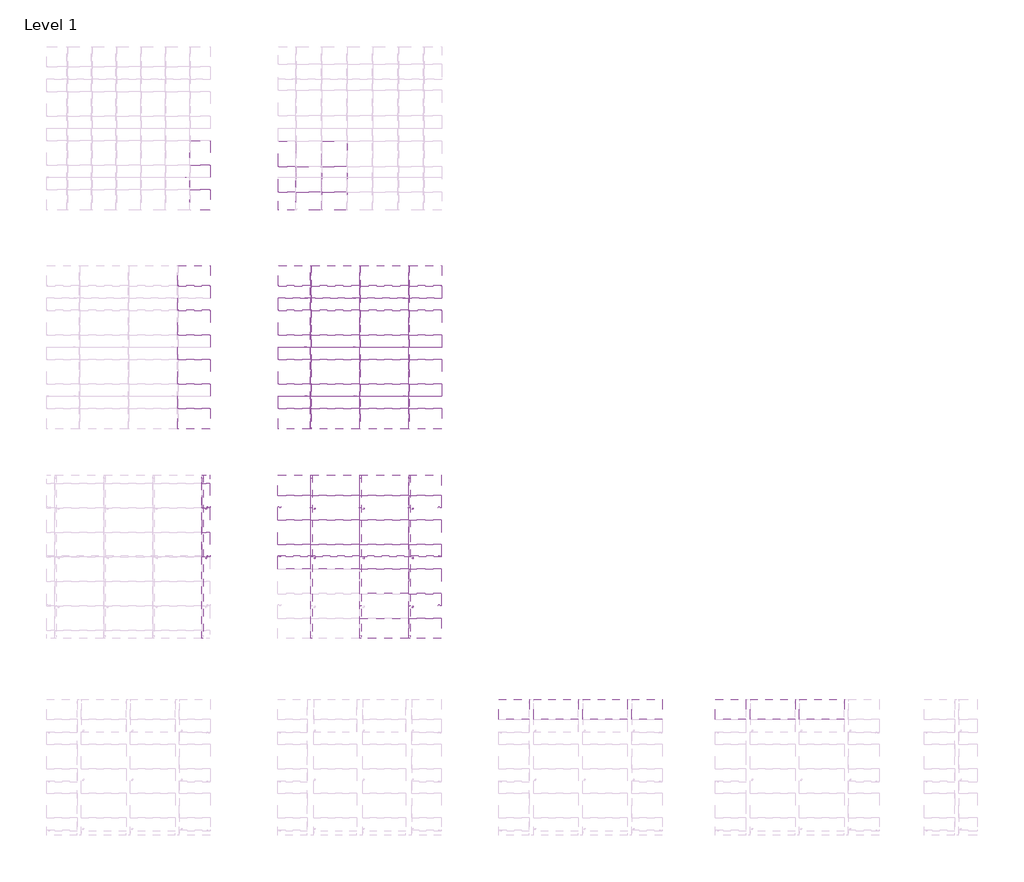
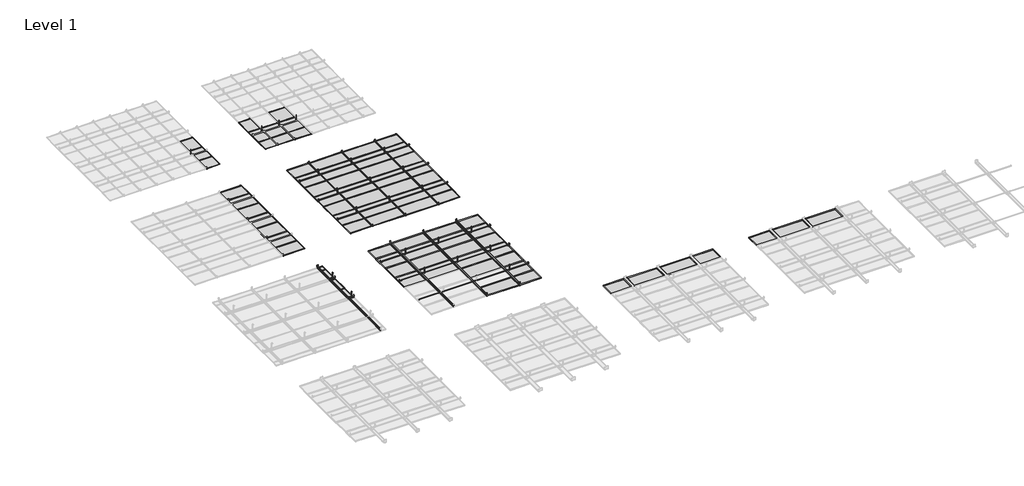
# One storey, part 20 of 32: 135 proxies.
"""IFC4 building model written with IfcOpenShell, lengths in millimetres."""

from ifc_helpers import new_model, si_unit, origin, place, context, project, spatial, transform, mapped, element, save
from components import generic_models_6a3b3989, generic_models_23599627, generic_models_d6b72831, generic_models_b4e013a1, generic_models_a68d030a, generic_models_2e6f3e4f, generic_models_30bc5e68, generic_models_f1efeb4e, generic_models_8a91d987, generic_models_d8e51ee8, generic_models_84546a59, generic_models_9e18e937, generic_models_28f6a95c, generic_models_9ccf16c1, generic_models_0c29f77a, generic_models_38625c8c, generic_models_52b0cff2, generic_models_a15f8cf3, generic_models_7573e460, generic_models_cc1ed79e, generic_models_8a6f20a3, generic_models_2f172364, generic_models_72923a4e, generic_models_39815823, generic_models_aa8f36d8, generic_models_26324e2b, generic_models_eb6e0cd6, generic_models_ee13603d, generic_models_6d21b951, generic_models_9f1153b6

model = new_model("IFC4")

# Units and contexts
model_context = context("Model", 3, world=origin())
ifc_project = project(units=[si_unit("LENGTHUNIT", "METRE", prefix="MILLI")], contexts=[model_context])

# Site, building, storey
site = spatial("IfcSite", under=ifc_project)
building = spatial("IfcBuilding", under=site)
storey = spatial("IfcBuildingStorey", under=building, Name="Level 1", Elevation=0.0)

# Proxies
placement = place(None, origin())
generic_models_shape = generic_models_6a3b3989(model_context)
element("IfcBuildingElementProxy", 1, Name="durlum_S4_panel : durlum_S4_panel_wall_length_cut", ObjectType="durlum_S4_panel : durlum_S4_panel_wall_length_cut", at=placement, inside=storey, context=model_context, shape_type="MappedRepresentation", body=[
    mapped(generic_models_shape, transform((-15490.1736977, 4332.0111467, 3700.0), x_axis=(1.0, 0.0, 0.0), y_axis=(0.0, 1.0, 0.0), z_axis=(0.0, 0.0, 1.0))),
])
element("IfcBuildingElementProxy", 2, Name="durlum_S4_panel : durlum_S4_panel_wall_length_cut", ObjectType="durlum_S4_panel : durlum_S4_panel_wall_length_cut", at=placement, inside=storey, context=model_context, shape_type="MappedRepresentation", body=[
    mapped(generic_models_shape, transform((-15490.1736977, 4932.0111467, 3700.0), x_axis=(1.0, 0.0, 0.0), y_axis=(0.0, 1.0, 0.0), z_axis=(0.0, 0.0, 1.0))),
])
element("IfcBuildingElementProxy", 3, Name="durlum_S4_panel : durlum_S4_panel_wall_length_cut", ObjectType="durlum_S4_panel : durlum_S4_panel_wall_length_cut", at=placement, inside=storey, context=model_context, shape_type="MappedRepresentation", body=[
    mapped(generic_models_shape, transform((-15490.1736977, 5532.0111467, 3700.0), x_axis=(1.0, 0.0, 0.0), y_axis=(0.0, 1.0, 0.0), z_axis=(0.0, 0.0, 1.0))),
])
generic_models_2_shape = generic_models_23599627(model_context)
element("IfcBuildingElementProxy", 4, Name="durlum_S4_panel : durlum_S4_panel_wall_corner", ObjectType="durlum_S4_panel : durlum_S4_panel_wall_corner", at=placement, inside=storey, context=model_context, shape_type="MappedRepresentation", body=[
    mapped(generic_models_2_shape, transform((-15490.1736977, 5932.0111467, 3700.0), x_axis=(1.0, 0.0, 0.0), y_axis=(0.0, 1.0, 0.0), z_axis=(0.0, 0.0, 1.0))),
])
generic_models_3_shape = generic_models_d6b72831(model_context)
element("IfcBuildingElementProxy", 5, Name="durlum_S4.7K : durlum_S4.7K", ObjectType="durlum_S4.7K : durlum_S4.7K", at=placement, inside=storey, context=model_context, shape_type="MappedRepresentation", body=[
    mapped(generic_models_3_shape, transform((-11736.0747393, 4032.0111467, 1700.0), x_axis=(1.0, 0.0, 0.0), y_axis=(0.0, 1.0, 0.0), z_axis=(0.0, 0.0, 1.0))),
])
generic_models_4_shape = generic_models_b4e013a1(model_context)
element("IfcBuildingElementProxy", 6, Name="durlum_S4.7K_panel : durlum_S4.7_panel", ObjectType="durlum_S4.7K_panel : durlum_S4.7_panel", at=placement, inside=storey, context=model_context, shape_type="MappedRepresentation", body=[
    mapped(generic_models_4_shape, transform((-12336.0747393, 4032.0111467, 3700.0), x_axis=(1.0, 0.0, 0.0), y_axis=(0.0, 1.0, 0.0), z_axis=(0.0, 0.0, 1.0))),
])
element("IfcBuildingElementProxy", 7, Name="durlum_S4.7K_panel : durlum_S4.7_panel", ObjectType="durlum_S4.7K_panel : durlum_S4.7_panel", at=placement, inside=storey, context=model_context, shape_type="MappedRepresentation", body=[
    mapped(generic_models_4_shape, transform((-11136.0747393, 4032.0111467, 3700.0), x_axis=(1.0, 0.0, 0.0), y_axis=(0.0, 1.0, 0.0), z_axis=(0.0, 0.0, 1.0))),
])
element("IfcBuildingElementProxy", 8, Name="durlum_S4.7K_panel : durlum_S4.7_panel", ObjectType="durlum_S4.7K_panel : durlum_S4.7_panel", at=placement, inside=storey, context=model_context, shape_type="MappedRepresentation", body=[
    mapped(generic_models_4_shape, transform((-12336.0747393, 4632.0111467, 3700.0), x_axis=(1.0, 0.0, 0.0), y_axis=(0.0, 1.0, 0.0), z_axis=(0.0, 0.0, 1.0))),
])
element("IfcBuildingElementProxy", 9, Name="durlum_S4.7K_panel : durlum_S4.7_panel", ObjectType="durlum_S4.7K_panel : durlum_S4.7_panel", at=placement, inside=storey, context=model_context, shape_type="MappedRepresentation", body=[
    mapped(generic_models_4_shape, transform((-11136.0747393, 4632.0111467, 3700.0), x_axis=(1.0, 0.0, 0.0), y_axis=(0.0, 1.0, 0.0), z_axis=(0.0, 0.0, 1.0))),
])
element("IfcBuildingElementProxy", 10, Name="durlum_S4.7K_panel : durlum_S4.7_panel", ObjectType="durlum_S4.7K_panel : durlum_S4.7_panel", at=placement, inside=storey, context=model_context, shape_type="MappedRepresentation", body=[
    mapped(generic_models_4_shape, transform((-12336.0747393, 5232.0111467, 3700.0), x_axis=(1.0, 0.0, 0.0), y_axis=(0.0, 1.0, 0.0), z_axis=(0.0, 0.0, 1.0))),
])
element("IfcBuildingElementProxy", 11, Name="durlum_S4.7K_panel : durlum_S4.7_panel", ObjectType="durlum_S4.7K_panel : durlum_S4.7_panel", at=placement, inside=storey, context=model_context, shape_type="MappedRepresentation", body=[
    mapped(generic_models_4_shape, transform((-11136.0747393, 5232.0111467, 3700.0), x_axis=(1.0, 0.0, 0.0), y_axis=(0.0, 1.0, 0.0), z_axis=(0.0, 0.0, 1.0))),
])
element("IfcBuildingElementProxy", 12, Name="durlum_S4.7K_panel : durlum_S4.7_panel", ObjectType="durlum_S4.7K_panel : durlum_S4.7_panel", at=placement, inside=storey, context=model_context, shape_type="MappedRepresentation", body=[
    mapped(generic_models_4_shape, transform((-11136.0747393, 3432.0111467, 3700.0), x_axis=(1.0, 0.0, 0.0), y_axis=(0.0, 1.0, 0.0), z_axis=(0.0, 0.0, 1.0))),
])
generic_models_5_shape = generic_models_a68d030a(model_context)
element("IfcBuildingElementProxy", 13, Name="durlum_S4.7K_panel : durlum_S4.7_panel_wall_length_cut", ObjectType="durlum_S4.7K_panel : durlum_S4.7_panel_wall_length_cut", at=placement, inside=storey, context=model_context, shape_type="MappedRepresentation", body=[
    mapped(generic_models_5_shape, transform((-10136.0747393, 3432.0111467, 3700.0), x_axis=(1.0, 0.0, 0.0), y_axis=(0.0, 1.0, 0.0), z_axis=(0.0, 0.0, 1.0))),
])
element("IfcBuildingElementProxy", 14, Name="durlum_S4.7K_panel : durlum_S4.7_panel_wall_length_cut", ObjectType="durlum_S4.7K_panel : durlum_S4.7_panel_wall_length_cut", at=placement, inside=storey, context=model_context, shape_type="MappedRepresentation", body=[
    mapped(generic_models_5_shape, transform((-13336.0747393, 4032.0111467, 3700.0), x_axis=(1.0, 0.0, 0.0), y_axis=(0.0, 1.0, 0.0), z_axis=(0.0, 0.0, 1.0))),
])
element("IfcBuildingElementProxy", 15, Name="durlum_S4.7K_panel : durlum_S4.7_panel_wall_length_cut", ObjectType="durlum_S4.7K_panel : durlum_S4.7_panel_wall_length_cut", at=placement, inside=storey, context=model_context, shape_type="MappedRepresentation", body=[
    mapped(generic_models_5_shape, transform((-10136.0747393, 4032.0111467, 3700.0), x_axis=(1.0, 0.0, 0.0), y_axis=(0.0, 1.0, 0.0), z_axis=(0.0, 0.0, 1.0))),
])
element("IfcBuildingElementProxy", 16, Name="durlum_S4.7K_panel : durlum_S4.7_panel_wall_length_cut", ObjectType="durlum_S4.7K_panel : durlum_S4.7_panel_wall_length_cut", at=placement, inside=storey, context=model_context, shape_type="MappedRepresentation", body=[
    mapped(generic_models_5_shape, transform((-13336.0747393, 4632.0111467, 3700.0), x_axis=(1.0, 0.0, 0.0), y_axis=(0.0, 1.0, 0.0), z_axis=(0.0, 0.0, 1.0))),
])
element("IfcBuildingElementProxy", 17, Name="durlum_S4.7K_panel : durlum_S4.7_panel_wall_length_cut", ObjectType="durlum_S4.7K_panel : durlum_S4.7_panel_wall_length_cut", at=placement, inside=storey, context=model_context, shape_type="MappedRepresentation", body=[
    mapped(generic_models_5_shape, transform((-10136.0747393, 4632.0111467, 3700.0), x_axis=(1.0, 0.0, 0.0), y_axis=(0.0, 1.0, 0.0), z_axis=(0.0, 0.0, 1.0))),
])
element("IfcBuildingElementProxy", 18, Name="durlum_S4.7K_panel : durlum_S4.7_panel_wall_length_cut", ObjectType="durlum_S4.7K_panel : durlum_S4.7_panel_wall_length_cut", at=placement, inside=storey, context=model_context, shape_type="MappedRepresentation", body=[
    mapped(generic_models_5_shape, transform((-10136.0747393, 2832.0111467, 3700.0), x_axis=(1.0, 0.0, 0.0), y_axis=(0.0, 1.0, 0.0), z_axis=(0.0, 0.0, 1.0))),
])
element("IfcBuildingElementProxy", 19, Name="durlum_S4.7K_panel : durlum_S4.7_panel_wall_length_cut", ObjectType="durlum_S4.7K_panel : durlum_S4.7_panel_wall_length_cut", at=placement, inside=storey, context=model_context, shape_type="MappedRepresentation", body=[
    mapped(generic_models_5_shape, transform((-10136.0747393, 5232.0111467, 3700.0), x_axis=(1.0, 0.0, 0.0), y_axis=(0.0, 1.0, 0.0), z_axis=(0.0, 0.0, 1.0))),
])
element("IfcBuildingElementProxy", 20, Name="durlum_S4.7K_panel : durlum_S4.7_panel_wall_length_cut", ObjectType="durlum_S4.7K_panel : durlum_S4.7_panel_wall_length_cut", at=placement, inside=storey, context=model_context, shape_type="MappedRepresentation", body=[
    mapped(generic_models_5_shape, transform((-13336.0747393, 5232.0111467, 3700.0), x_axis=(1.0, 0.0, 0.0), y_axis=(0.0, 1.0, 0.0), z_axis=(0.0, 0.0, 1.0))),
])
generic_models_6_shape = generic_models_2e6f3e4f(model_context)
element("IfcBuildingElementProxy", 21, Name="durlum_S4.7K_panel : durlum_S4.7_panel_wall_width_cut", ObjectType="durlum_S4.7K_panel : durlum_S4.7_panel_wall_width_cut", at=placement, inside=storey, context=model_context, shape_type="MappedRepresentation", body=[
    mapped(generic_models_6_shape, transform((-11136.0747393, 2282.0111467, 3700.0), x_axis=(1.0, 0.0, 0.0), y_axis=(0.0, 1.0, 0.0), z_axis=(0.0, 0.0, 1.0))),
])
element("IfcBuildingElementProxy", 22, Name="durlum_S4.7K_panel : durlum_S4.7_panel_wall_width_cut", ObjectType="durlum_S4.7K_panel : durlum_S4.7_panel_wall_width_cut", at=placement, inside=storey, context=model_context, shape_type="MappedRepresentation", body=[
    mapped(generic_models_6_shape, transform((-11136.0747393, 5782.0111467, 3700.0), x_axis=(1.0, 0.0, 0.0), y_axis=(0.0, 1.0, 0.0), z_axis=(0.0, 0.0, 1.0))),
])
element("IfcBuildingElementProxy", 23, Name="durlum_S4.7K_panel : durlum_S4.7_panel_wall_width_cut", ObjectType="durlum_S4.7K_panel : durlum_S4.7_panel_wall_width_cut", at=placement, inside=storey, context=model_context, shape_type="MappedRepresentation", body=[
    mapped(generic_models_6_shape, transform((-12336.0747393, 5782.0111467, 3700.0), x_axis=(1.0, 0.0, 0.0), y_axis=(0.0, 1.0, 0.0), z_axis=(0.0, 0.0, 1.0))),
])
generic_models_7_shape = generic_models_30bc5e68(model_context)
element("IfcBuildingElementProxy", 24, Name="durlum_S4.7K_panel : durlum_S4.7_panel_wall_corner", ObjectType="durlum_S4.7K_panel : durlum_S4.7_panel_wall_corner", at=placement, inside=storey, context=model_context, shape_type="MappedRepresentation", body=[
    mapped(generic_models_7_shape, transform((-10136.0747393, 2282.0111467, 3700.0), x_axis=(1.0, 0.0, 0.0), y_axis=(0.0, 1.0, 0.0), z_axis=(0.0, 0.0, 1.0))),
])
element("IfcBuildingElementProxy", 25, Name="durlum_S4.7K_panel : durlum_S4.7_panel_wall_corner", ObjectType="durlum_S4.7K_panel : durlum_S4.7_panel_wall_corner", at=placement, inside=storey, context=model_context, shape_type="MappedRepresentation", body=[
    mapped(generic_models_7_shape, transform((-10136.0747393, 5782.0111467, 3700.0), x_axis=(1.0, 0.0, 0.0), y_axis=(0.0, 1.0, 0.0), z_axis=(0.0, 0.0, 1.0))),
])
element("IfcBuildingElementProxy", 26, Name="durlum_S4.7K_panel : durlum_S4.7_panel_wall_corner", ObjectType="durlum_S4.7K_panel : durlum_S4.7_panel_wall_corner", at=placement, inside=storey, context=model_context, shape_type="MappedRepresentation", body=[
    mapped(generic_models_7_shape, transform((-13336.0747393, 5782.0111467, 3700.0), x_axis=(1.0, 0.0, 0.0), y_axis=(0.0, 1.0, 0.0), z_axis=(0.0, 0.0, 1.0))),
])
generic_models_8_shape = generic_models_f1efeb4e(model_context)
element("IfcBuildingElementProxy", 27, Name="durlum_U1300 : durlum_U1300", ObjectType="durlum_U1300 : durlum_U1300", at=placement, inside=storey, context=model_context, shape_type="MappedRepresentation", body=[
    mapped(generic_models_8_shape, transform((-10630.0747393, 9162.5129347, 3081.9124682), x_axis=(0.0, -1.0, 0.0), y_axis=(1.0, 0.0, 0.0), z_axis=(0.0, 0.0, 1.0))),
])
element("IfcBuildingElementProxy", 28, Name="durlum_U1300 : durlum_U1300", ObjectType="durlum_U1300 : durlum_U1300", at=placement, inside=storey, context=model_context, shape_type="MappedRepresentation", body=[
    mapped(generic_models_8_shape, transform((-13030.0747393, 9162.5129347, 3081.9124682), x_axis=(0.0, -1.0, 0.0), y_axis=(1.0, 0.0, 0.0), z_axis=(0.0, 0.0, 1.0))),
])
element("IfcBuildingElementProxy", 29, Name="durlum_U1300 : durlum_U1300", ObjectType="durlum_U1300 : durlum_U1300", at=placement, inside=storey, context=model_context, shape_type="MappedRepresentation", body=[
    mapped(generic_models_8_shape, transform((-11830.0747393, 9162.5129347, 3081.9124682), x_axis=(0.0, -1.0, 0.0), y_axis=(1.0, 0.0, 0.0), z_axis=(0.0, 0.0, 1.0))),
])
element("IfcBuildingElementProxy", 30, Name="durlum_U1300 : durlum_U1300", ObjectType="durlum_U1300 : durlum_U1300", at=placement, inside=storey, context=model_context, shape_type="MappedRepresentation", body=[
    mapped(generic_models_8_shape, transform((-10630.0747393, 7962.5129347, 3081.9124682), x_axis=(0.0, -1.0, 0.0), y_axis=(1.0, 0.0, 0.0), z_axis=(0.0, 0.0, 1.0))),
])
element("IfcBuildingElementProxy", 31, Name="durlum_U1300 : durlum_U1300", ObjectType="durlum_U1300 : durlum_U1300", at=placement, inside=storey, context=model_context, shape_type="MappedRepresentation", body=[
    mapped(generic_models_8_shape, transform((-13030.0747393, 7962.5129347, 3081.9124682), x_axis=(0.0, -1.0, 0.0), y_axis=(1.0, 0.0, 0.0), z_axis=(0.0, 0.0, 1.0))),
])
element("IfcBuildingElementProxy", 32, Name="durlum_U1300 : durlum_U1300", ObjectType="durlum_U1300 : durlum_U1300", at=placement, inside=storey, context=model_context, shape_type="MappedRepresentation", body=[
    mapped(generic_models_8_shape, transform((-11830.0747393, 7962.5129347, 3081.9124682), x_axis=(0.0, -1.0, 0.0), y_axis=(1.0, 0.0, 0.0), z_axis=(0.0, 0.0, 1.0))),
])
element("IfcBuildingElementProxy", 33, Name="durlum_U1300 : durlum_U1300", ObjectType="durlum_U1300 : durlum_U1300", at=placement, inside=storey, context=model_context, shape_type="MappedRepresentation", body=[
    mapped(generic_models_8_shape, transform((-10630.0747393, 10362.5129347, 3081.9124682), x_axis=(0.0, -1.0, 0.0), y_axis=(1.0, 0.0, 0.0), z_axis=(0.0, 0.0, 1.0))),
])
element("IfcBuildingElementProxy", 34, Name="durlum_U1300 : durlum_U1300", ObjectType="durlum_U1300 : durlum_U1300", at=placement, inside=storey, context=model_context, shape_type="MappedRepresentation", body=[
    mapped(generic_models_8_shape, transform((-13030.0747393, 10362.5129347, 3081.9124682), x_axis=(0.0, -1.0, 0.0), y_axis=(1.0, 0.0, 0.0), z_axis=(0.0, 0.0, 1.0))),
])
element("IfcBuildingElementProxy", 35, Name="durlum_U1300 : durlum_U1300", ObjectType="durlum_U1300 : durlum_U1300", at=placement, inside=storey, context=model_context, shape_type="MappedRepresentation", body=[
    mapped(generic_models_8_shape, transform((-11830.0747393, 10362.5129347, 3081.9124682), x_axis=(0.0, -1.0, 0.0), y_axis=(1.0, 0.0, 0.0), z_axis=(0.0, 0.0, 1.0))),
])
generic_models_9_shape = generic_models_8a91d987(model_context)
element("IfcBuildingElementProxy", 36, Name="durlum_U1300 : durlum_U1300", ObjectType="durlum_U1300 : durlum_U1300", at=placement, inside=storey, context=model_context, shape_type="MappedRepresentation", body=[
    mapped(generic_models_9_shape, transform((-15490.1736977, 5232.0111467, 3050.4124682), x_axis=(1.0, 0.0, 0.0), y_axis=(0.0, 1.0, 0.0), z_axis=(0.0, 0.0, 1.0))),
])
element("IfcBuildingElementProxy", 37, Name="durlum_U1300 : durlum_U1300", ObjectType="durlum_U1300 : durlum_U1300", at=placement, inside=storey, context=model_context, shape_type="MappedRepresentation", body=[
    mapped(generic_models_9_shape, transform((-15490.1736977, 4032.0111467, 3050.4124682), x_axis=(1.0, 0.0, 0.0), y_axis=(0.0, 1.0, 0.0), z_axis=(0.0, 0.0, 1.0))),
])
generic_models_10_shape = generic_models_d8e51ee8(model_context)
element("IfcBuildingElementProxy", 38, Name="durlum_U1300 : durlum_U1300", ObjectType="durlum_U1300 : durlum_U1300", at=placement, inside=storey, context=model_context, shape_type="MappedRepresentation", body=[
    mapped(generic_models_10_shape, transform((-12836.0747393, 4032.0111467, 3056.4124682), x_axis=(1.0, 0.0, 0.0), y_axis=(0.0, 1.0, 0.0), z_axis=(0.0, 0.0, 1.0))),
])
element("IfcBuildingElementProxy", 39, Name="durlum_U1300 : durlum_U1300", ObjectType="durlum_U1300 : durlum_U1300", at=placement, inside=storey, context=model_context, shape_type="MappedRepresentation", body=[
    mapped(generic_models_10_shape, transform((-10436.0747393, 4032.0111467, 3056.4124682), x_axis=(1.0, 0.0, 0.0), y_axis=(0.0, 1.0, 0.0), z_axis=(0.0, 0.0, 1.0))),
])
element("IfcBuildingElementProxy", 40, Name="durlum_U1300 : durlum_U1300", ObjectType="durlum_U1300 : durlum_U1300", at=placement, inside=storey, context=model_context, shape_type="MappedRepresentation", body=[
    mapped(generic_models_10_shape, transform((-12836.0747393, 5232.0111467, 3056.4124682), x_axis=(1.0, 0.0, 0.0), y_axis=(0.0, 1.0, 0.0), z_axis=(0.0, 0.0, 1.0))),
])
element("IfcBuildingElementProxy", 41, Name="durlum_U1300 : durlum_U1300", ObjectType="durlum_U1300 : durlum_U1300", at=placement, inside=storey, context=model_context, shape_type="MappedRepresentation", body=[
    mapped(generic_models_10_shape, transform((-10436.0747393, 5232.0111467, 3056.4124682), x_axis=(1.0, 0.0, 0.0), y_axis=(0.0, 1.0, 0.0), z_axis=(0.0, 0.0, 1.0))),
])
element("IfcBuildingElementProxy", 42, Name="durlum_U1300 : durlum_U1300", ObjectType="durlum_U1300 : durlum_U1300", at=placement, inside=storey, context=model_context, shape_type="MappedRepresentation", body=[
    mapped(generic_models_10_shape, transform((-10436.0747393, 2832.0111467, 3056.4124682), x_axis=(1.0, 0.0, 0.0), y_axis=(0.0, 1.0, 0.0), z_axis=(0.0, 0.0, 1.0))),
])
element("IfcBuildingElementProxy", 43, Name="durlum_U1300 : durlum_U1300", ObjectType="durlum_U1300 : durlum_U1300", at=placement, inside=storey, context=model_context, shape_type="MappedRepresentation", body=[
    mapped(generic_models_10_shape, transform((-11636.0747393, 4032.0111467, 3056.4124682), x_axis=(1.0, 0.0, 0.0), y_axis=(0.0, 1.0, 0.0), z_axis=(0.0, 0.0, 1.0))),
])
element("IfcBuildingElementProxy", 44, Name="durlum_U1300 : durlum_U1300", ObjectType="durlum_U1300 : durlum_U1300", at=placement, inside=storey, context=model_context, shape_type="MappedRepresentation", body=[
    mapped(generic_models_10_shape, transform((-11636.0747393, 5232.0111467, 3056.4124682), x_axis=(1.0, 0.0, 0.0), y_axis=(0.0, 1.0, 0.0), z_axis=(0.0, 0.0, 1.0))),
])
generic_models_11_shape = generic_models_84546a59(model_context)
element("IfcBuildingElementProxy", 45, Name="durlum_threaded_rod_M6 : durlum_threaded_rod_M6", ObjectType="durlum_threaded_rod_M6 : durlum_threaded_rod_M6", at=placement, inside=storey, context=model_context, shape_type="MappedRepresentation", body=[
    mapped(generic_models_11_shape, transform((-15984.1736977, 13316.936751, 3835.0), x_axis=(1.0, 0.0, 0.0), y_axis=(0.0, 1.0, 0.0), z_axis=(0.0, 0.0, 1.0))),
])
element("IfcBuildingElementProxy", 46, Name="durlum_threaded_rod_M6 : durlum_threaded_rod_M6", ObjectType="durlum_threaded_rod_M6 : durlum_threaded_rod_M6", at=placement, inside=storey, context=model_context, shape_type="MappedRepresentation", body=[
    mapped(generic_models_11_shape, transform((-13392.5747393, 13316.936751, 3835.0), x_axis=(1.0, 0.0, 0.0), y_axis=(0.0, 1.0, 0.0), z_axis=(0.0, 0.0, 1.0))),
])
element("IfcBuildingElementProxy", 47, Name="durlum_threaded_rod_M6 : durlum_threaded_rod_M6", ObjectType="durlum_threaded_rod_M6 : durlum_threaded_rod_M6", at=placement, inside=storey, context=model_context, shape_type="MappedRepresentation", body=[
    mapped(generic_models_11_shape, transform((-12142.5747393, 13316.936751, 3835.0), x_axis=(1.0, 0.0, 0.0), y_axis=(0.0, 1.0, 0.0), z_axis=(0.0, 0.0, 1.0))),
])
element("IfcBuildingElementProxy", 48, Name="durlum_threaded_rod_M6 : durlum_threaded_rod_M6", ObjectType="durlum_threaded_rod_M6 : durlum_threaded_rod_M6", at=placement, inside=storey, context=model_context, shape_type="MappedRepresentation", body=[
    mapped(generic_models_11_shape, transform((-12767.5747393, 13316.936751, 3835.0), x_axis=(1.0, 0.0, 0.0), y_axis=(0.0, 1.0, 0.0), z_axis=(0.0, 0.0, 1.0))),
])
generic_models_12_shape = generic_models_9e18e937(model_context)
element("IfcBuildingElementProxy", 49, Name="durlum_U1042 : durlum_U1042", ObjectType="durlum_U1042 : durlum_U1042", at=placement, inside=storey, context=model_context, shape_type="MappedRepresentation", body=[
    mapped(generic_models_12_shape, transform((-15571.7736977, 6032.0111467, 3772.0), x_axis=(1.0, 0.0, 0.0), y_axis=(0.0, 1.0, 0.0), z_axis=(0.0, 0.0, 1.0))),
])
element("IfcBuildingElementProxy", 50, Name="durlum_U1042 : durlum_U1042", ObjectType="durlum_U1042 : durlum_U1042", at=placement, inside=storey, context=model_context, shape_type="MappedRepresentation", body=[
    mapped(generic_models_12_shape, transform((-15390.1736977, 4046.0111467, 3770.0), x_axis=(0.0, -1.0, 0.0), y_axis=(1.0, 0.0, 0.0), z_axis=(0.0, 0.0, 1.0))),
])
element("IfcBuildingElementProxy", 51, Name="durlum_U1042 : durlum_U1042", ObjectType="durlum_U1042 : durlum_U1042", at=placement, inside=storey, context=model_context, shape_type="MappedRepresentation", body=[
    mapped(generic_models_12_shape, transform((-15390.1736977, 5246.0111467, 3770.0), x_axis=(0.0, -1.0, 0.0), y_axis=(1.0, 0.0, 0.0), z_axis=(0.0, 0.0, 1.0))),
])
generic_models_13_shape = generic_models_28f6a95c(model_context)
element("IfcBuildingElementProxy", 52, Name="durlum_U1042 : durlum_U1042", ObjectType="durlum_U1042 : durlum_U1042", at=placement, inside=storey, context=model_context, shape_type="MappedRepresentation", body=[
    mapped(generic_models_13_shape, transform((-13736.0747393, 4046.0111467, 3776.0), x_axis=(0.0, -1.0, 0.0), y_axis=(1.0, 0.0, 0.0), z_axis=(0.0, 0.0, 1.0))),
])
element("IfcBuildingElementProxy", 53, Name="durlum_U1042 : durlum_U1042", ObjectType="durlum_U1042 : durlum_U1042", at=placement, inside=storey, context=model_context, shape_type="MappedRepresentation", body=[
    mapped(generic_models_13_shape, transform((-13736.0747393, 5246.0111467, 3776.0), x_axis=(0.0, -1.0, 0.0), y_axis=(1.0, 0.0, 0.0), z_axis=(0.0, 0.0, 1.0))),
])
element("IfcBuildingElementProxy", 54, Name="durlum_U1042 : durlum_U1042", ObjectType="durlum_U1042 : durlum_U1042", at=placement, inside=storey, context=model_context, shape_type="MappedRepresentation", body=[
    mapped(generic_models_12_shape, transform((-9736.0747393, 4046.0111467, 3776.0), x_axis=(0.0, -1.0, 0.0), y_axis=(1.0, 0.0, 0.0), z_axis=(0.0, 0.0, 1.0))),
])
element("IfcBuildingElementProxy", 55, Name="durlum_U1042 : durlum_U1042", ObjectType="durlum_U1042 : durlum_U1042", at=placement, inside=storey, context=model_context, shape_type="MappedRepresentation", body=[
    mapped(generic_models_12_shape, transform((-9736.0747393, 5246.0111467, 3776.0), x_axis=(0.0, -1.0, 0.0), y_axis=(1.0, 0.0, 0.0), z_axis=(0.0, 0.0, 1.0))),
])
element("IfcBuildingElementProxy", 56, Name="durlum_U1042 : durlum_U1042", ObjectType="durlum_U1042 : durlum_U1042", at=placement, inside=storey, context=model_context, shape_type="MappedRepresentation", body=[
    mapped(generic_models_12_shape, transform((-12917.6747393, 6032.0111467, 3778.0), x_axis=(1.0, 0.0, 0.0), y_axis=(0.0, 1.0, 0.0), z_axis=(0.0, 0.0, 1.0))),
])
element("IfcBuildingElementProxy", 57, Name="durlum_U1042 : durlum_U1042", ObjectType="durlum_U1042 : durlum_U1042", at=placement, inside=storey, context=model_context, shape_type="MappedRepresentation", body=[
    mapped(generic_models_12_shape, transform((-10517.6747393, 2032.0111467, 3778.0), x_axis=(-1.0, 0.0, 0.0), y_axis=(0.0, -1.0, 0.0), z_axis=(0.0, 0.0, 1.0))),
])
element("IfcBuildingElementProxy", 58, Name="durlum_U1042 : durlum_U1042", ObjectType="durlum_U1042 : durlum_U1042", at=placement, inside=storey, context=model_context, shape_type="MappedRepresentation", body=[
    mapped(generic_models_12_shape, transform((-10517.6747393, 6032.0111467, 3778.0), x_axis=(1.0, 0.0, 0.0), y_axis=(0.0, 1.0, 0.0), z_axis=(0.0, 0.0, 1.0))),
])
element("IfcBuildingElementProxy", 59, Name="durlum_U1042 : durlum_U1042", ObjectType="durlum_U1042 : durlum_U1042", at=placement, inside=storey, context=model_context, shape_type="MappedRepresentation", body=[
    mapped(generic_models_12_shape, transform((-9736.0747393, 2846.0111467, 3776.0), x_axis=(0.0, -1.0, 0.0), y_axis=(1.0, 0.0, 0.0), z_axis=(0.0, 0.0, 1.0))),
])
element("IfcBuildingElementProxy", 60, Name="durlum_U1042 : durlum_U1042", ObjectType="durlum_U1042 : durlum_U1042", at=placement, inside=storey, context=model_context, shape_type="MappedRepresentation", body=[
    mapped(generic_models_12_shape, transform((-11717.6747393, 6032.0111467, 3778.0), x_axis=(1.0, 0.0, 0.0), y_axis=(0.0, 1.0, 0.0), z_axis=(0.0, 0.0, 1.0))),
])
element("IfcBuildingElementProxy", 61, Name="durlum_U1042 : durlum_U1042", ObjectType="durlum_U1042 : durlum_U1042", at=placement, inside=storey, context=model_context, shape_type="MappedRepresentation", body=[
    mapped(generic_models_12_shape, transform((-11717.6747393, 2032.0111467, 3778.0), x_axis=(-1.0, 0.0, 0.0), y_axis=(0.0, -1.0, 0.0), z_axis=(0.0, 0.0, 1.0))),
])
generic_models_14_shape = generic_models_9ccf16c1(model_context)
element("IfcBuildingElementProxy", 62, Name="durlum_U1044 : durlum_U1044", ObjectType="durlum_U1044 : durlum_U1044", at=placement, inside=storey, context=model_context, shape_type="MappedRepresentation", body=[
    mapped(generic_models_14_shape, transform((-10516.0747393, 5230.5111467, 3768.0), x_axis=(-1.0, 0.0, 0.0), y_axis=(0.0, -1.0, 0.0), z_axis=(0.0, 0.0, 1.0))),
])
element("IfcBuildingElementProxy", 63, Name="durlum_U1044 : durlum_U1044", ObjectType="durlum_U1044 : durlum_U1044", at=placement, inside=storey, context=model_context, shape_type="MappedRepresentation", body=[
    mapped(generic_models_14_shape, transform((-15570.1736977, 4030.5111467, 3762.0), x_axis=(-1.0, 0.0, 0.0), y_axis=(0.0, -1.0, 0.0), z_axis=(0.0, 0.0, 1.0))),
])
element("IfcBuildingElementProxy", 64, Name="durlum_U1044 : durlum_U1044", ObjectType="durlum_U1044 : durlum_U1044", at=placement, inside=storey, context=model_context, shape_type="MappedRepresentation", body=[
    mapped(generic_models_14_shape, transform((-15570.1736977, 5230.5111467, 3762.0), x_axis=(-1.0, 0.0, 0.0), y_axis=(0.0, -1.0, 0.0), z_axis=(0.0, 0.0, 1.0))),
])
element("IfcBuildingElementProxy", 65, Name="durlum_U1044 : durlum_U1044", ObjectType="durlum_U1044 : durlum_U1044", at=placement, inside=storey, context=model_context, shape_type="MappedRepresentation", body=[
    mapped(generic_models_14_shape, transform((-10516.0747393, 4030.5111467, 3768.0), x_axis=(-1.0, 0.0, 0.0), y_axis=(0.0, -1.0, 0.0), z_axis=(0.0, 0.0, 1.0))),
])
element("IfcBuildingElementProxy", 66, Name="durlum_U1044 : durlum_U1044", ObjectType="durlum_U1044 : durlum_U1044", at=placement, inside=storey, context=model_context, shape_type="MappedRepresentation", body=[
    mapped(generic_models_14_shape, transform((-12916.0747393, 4030.5111467, 3768.0), x_axis=(-1.0, 0.0, 0.0), y_axis=(0.0, -1.0, 0.0), z_axis=(0.0, 0.0, 1.0))),
])
element("IfcBuildingElementProxy", 67, Name="durlum_U1044 : durlum_U1044", ObjectType="durlum_U1044 : durlum_U1044", at=placement, inside=storey, context=model_context, shape_type="MappedRepresentation", body=[
    mapped(generic_models_14_shape, transform((-12916.0747393, 5230.5111467, 3768.0), x_axis=(-1.0, 0.0, 0.0), y_axis=(0.0, -1.0, 0.0), z_axis=(0.0, 0.0, 1.0))),
])
element("IfcBuildingElementProxy", 68, Name="durlum_U1044 : durlum_U1044", ObjectType="durlum_U1044 : durlum_U1044", at=placement, inside=storey, context=model_context, shape_type="MappedRepresentation", body=[
    mapped(generic_models_14_shape, transform((-10516.0747393, 2830.5111467, 3768.0), x_axis=(-1.0, 0.0, 0.0), y_axis=(0.0, -1.0, 0.0), z_axis=(0.0, 0.0, 1.0))),
])
element("IfcBuildingElementProxy", 69, Name="durlum_U1044 : durlum_U1044", ObjectType="durlum_U1044 : durlum_U1044", at=placement, inside=storey, context=model_context, shape_type="MappedRepresentation", body=[
    mapped(generic_models_14_shape, transform((-11716.0747393, 4030.5111467, 3768.0), x_axis=(-1.0, 0.0, 0.0), y_axis=(0.0, -1.0, 0.0), z_axis=(0.0, 0.0, 1.0))),
])
element("IfcBuildingElementProxy", 70, Name="durlum_U1044 : durlum_U1044", ObjectType="durlum_U1044 : durlum_U1044", at=placement, inside=storey, context=model_context, shape_type="MappedRepresentation", body=[
    mapped(generic_models_14_shape, transform((-11716.0747393, 5230.5111467, 3768.0), x_axis=(-1.0, 0.0, 0.0), y_axis=(0.0, -1.0, 0.0), z_axis=(0.0, 0.0, 1.0))),
])
element("IfcBuildingElementProxy", 71, Name="durlum_U1044 : durlum_U1044", ObjectType="durlum_U1044 : durlum_U1044", at=placement, inside=storey, context=model_context, shape_type="MappedRepresentation", body=[
    mapped(generic_models_14_shape, transform((-11716.0747393, 2830.5111467, 3768.0), x_axis=(-1.0, 0.0, 0.0), y_axis=(0.0, -1.0, 0.0), z_axis=(0.0, 0.0, 1.0))),
])
generic_models_15_shape = generic_models_0c29f77a(model_context)
element("IfcBuildingElementProxy", 72, Name="durlum_U1005 : durlum_U_1005_AM", ObjectType="durlum_U1005 : durlum_U_1005_AM", at=placement, inside=storey, context=model_context, shape_type="MappedRepresentation", body=[
    mapped(generic_models_15_shape, transform((-12915.0747393, 4032.0111467, 3728.0), x_axis=(0.0, 1.0, 0.0), y_axis=(-1.0, 0.0, 0.0), z_axis=(0.0, 0.0, 1.0))),
])
element("IfcBuildingElementProxy", 73, Name="durlum_U1005 : durlum_U_1005_AM", ObjectType="durlum_U1005 : durlum_U_1005_AM", at=placement, inside=storey, context=model_context, shape_type="MappedRepresentation", body=[
    mapped(generic_models_15_shape, transform((-10515.0747393, 4032.0111467, 3728.0), x_axis=(0.0, 1.0, 0.0), y_axis=(-1.0, 0.0, 0.0), z_axis=(0.0, 0.0, 1.0))),
])
element("IfcBuildingElementProxy", 74, Name="durlum_U1005 : durlum_U_1005_AM", ObjectType="durlum_U1005 : durlum_U_1005_AM", at=placement, inside=storey, context=model_context, shape_type="MappedRepresentation", body=[
    mapped(generic_models_15_shape, transform((-11715.0747393, 4032.0111467, 3728.0), x_axis=(0.0, 1.0, 0.0), y_axis=(-1.0, 0.0, 0.0), z_axis=(0.0, 0.0, 1.0))),
])
generic_models_16_shape = generic_models_38625c8c(model_context)
element("IfcBuildingElementProxy", 75, Name="durlum_U1000 : durlum_U1000", ObjectType="durlum_U1000 : durlum_U1000", at=placement, inside=storey, context=model_context, shape_type="MappedRepresentation", body=[
    mapped(generic_models_16_shape, transform((-11730.0747393, 9162.5129347, 3760.4163794), x_axis=(1.0, 0.0, 0.0), y_axis=(0.0, 1.0, 0.0), z_axis=(0.0, 0.0, 1.0))),
])
element("IfcBuildingElementProxy", 76, Name="durlum_U1000 : durlum_U1000", ObjectType="durlum_U1000 : durlum_U1000", at=placement, inside=storey, context=model_context, shape_type="MappedRepresentation", body=[
    mapped(generic_models_16_shape, transform((-11730.0747393, 7962.5129347, 3760.4163794), x_axis=(1.0, 0.0, 0.0), y_axis=(0.0, 1.0, 0.0), z_axis=(0.0, 0.0, 1.0))),
])
element("IfcBuildingElementProxy", 77, Name="durlum_U1000 : durlum_U1000", ObjectType="durlum_U1000 : durlum_U1000", at=placement, inside=storey, context=model_context, shape_type="MappedRepresentation", body=[
    mapped(generic_models_16_shape, transform((-11730.0747393, 10362.5129347, 3760.4163794), x_axis=(1.0, 0.0, 0.0), y_axis=(0.0, 1.0, 0.0), z_axis=(0.0, 0.0, 1.0))),
])
element("IfcBuildingElementProxy", 78, Name="durlum_U1000 : durlum_U1000", ObjectType="durlum_U1000 : durlum_U1000", at=placement, inside=storey, context=model_context, shape_type="MappedRepresentation", body=[
    mapped(generic_models_16_shape, transform((-11730.0747393, 9162.5129347, 3720.3202962), x_axis=(0.0, 1.0, 0.0), y_axis=(-1.0, 0.0, 0.0), z_axis=(0.0, 0.0, 1.0))),
])
element("IfcBuildingElementProxy", 79, Name="durlum_U1000 : durlum_U1000", ObjectType="durlum_U1000 : durlum_U1000", at=placement, inside=storey, context=model_context, shape_type="MappedRepresentation", body=[
    mapped(generic_models_16_shape, transform((-12930.0747393, 9162.5129347, 3720.3202962), x_axis=(0.0, 1.0, 0.0), y_axis=(-1.0, 0.0, 0.0), z_axis=(0.0, 0.0, 1.0))),
])
element("IfcBuildingElementProxy", 80, Name="durlum_U1000 : durlum_U1000", ObjectType="durlum_U1000 : durlum_U1000", at=placement, inside=storey, context=model_context, shape_type="MappedRepresentation", body=[
    mapped(generic_models_16_shape, transform((-10530.0747393, 9162.5129347, 3720.3202962), x_axis=(0.0, 1.0, 0.0), y_axis=(-1.0, 0.0, 0.0), z_axis=(0.0, 0.0, 1.0))),
])
generic_models_17_shape = generic_models_52b0cff2(model_context)
element("IfcBuildingElementProxy", 81, Name="durlum_S1.12KD_panel : durlum_S1.12KD_panel_wall_width_cut", ObjectType="durlum_S1.12KD_panel : durlum_S1.12KD_panel_wall_width_cut", at=placement, inside=storey, context=model_context, shape_type="MappedRepresentation", body=[
    mapped(generic_models_17_shape, transform((-11130.0747393, 7412.5129347, 3700.0), x_axis=(1.0, 0.0, 0.0), y_axis=(0.0, 1.0, 0.0), z_axis=(0.0, 0.0, 1.0))),
])
element("IfcBuildingElementProxy", 82, Name="durlum_S1.12KD_panel : durlum_S1.12KD_panel_wall_width_cut", ObjectType="durlum_S1.12KD_panel : durlum_S1.12KD_panel_wall_width_cut", at=placement, inside=storey, context=model_context, shape_type="MappedRepresentation", body=[
    mapped(generic_models_17_shape, transform((-11130.0747393, 10912.5129347, 3700.0), x_axis=(1.0, 0.0, 0.0), y_axis=(0.0, 1.0, 0.0), z_axis=(0.0, 0.0, 1.0))),
])
element("IfcBuildingElementProxy", 83, Name="durlum_S1.12KD_panel : durlum_S1.12KD_panel_wall_width_cut", ObjectType="durlum_S1.12KD_panel : durlum_S1.12KD_panel_wall_width_cut", at=placement, inside=storey, context=model_context, shape_type="MappedRepresentation", body=[
    mapped(generic_models_17_shape, transform((-12330.0747393, 7412.5129347, 3700.0), x_axis=(1.0, 0.0, 0.0), y_axis=(0.0, 1.0, 0.0), z_axis=(0.0, 0.0, 1.0))),
])
element("IfcBuildingElementProxy", 84, Name="durlum_S1.12KD_panel : durlum_S1.12KD_panel_wall_width_cut", ObjectType="durlum_S1.12KD_panel : durlum_S1.12KD_panel_wall_width_cut", at=placement, inside=storey, context=model_context, shape_type="MappedRepresentation", body=[
    mapped(generic_models_17_shape, transform((-12330.0747393, 10912.5129347, 3700.0), x_axis=(1.0, 0.0, 0.0), y_axis=(0.0, 1.0, 0.0), z_axis=(0.0, 0.0, 1.0))),
])
generic_models_18_shape = generic_models_a15f8cf3(model_context)
element("IfcBuildingElementProxy", 85, Name="durlum_S1.12KD_panel : durlum_S1.12KD_panel", ObjectType="durlum_S1.12KD_panel : durlum_S1.12KD_panel", at=placement, inside=storey, context=model_context, shape_type="MappedRepresentation", body=[
    mapped(generic_models_18_shape, transform((-12330.0747393, 8562.5129347, 3700.0), x_axis=(1.0, 0.0, 0.0), y_axis=(0.0, 1.0, 0.0), z_axis=(0.0, 0.0, 1.0))),
])
element("IfcBuildingElementProxy", 86, Name="durlum_S1.12KD_panel : durlum_S1.12KD_panel", ObjectType="durlum_S1.12KD_panel : durlum_S1.12KD_panel", at=placement, inside=storey, context=model_context, shape_type="MappedRepresentation", body=[
    mapped(generic_models_18_shape, transform((-11130.0747393, 8562.5129347, 3700.0), x_axis=(1.0, 0.0, 0.0), y_axis=(0.0, 1.0, 0.0), z_axis=(0.0, 0.0, 1.0))),
])
element("IfcBuildingElementProxy", 87, Name="durlum_S1.12KD_panel : durlum_S1.12KD_panel", ObjectType="durlum_S1.12KD_panel : durlum_S1.12KD_panel", at=placement, inside=storey, context=model_context, shape_type="MappedRepresentation", body=[
    mapped(generic_models_18_shape, transform((-12330.0747393, 9162.5129347, 3700.0), x_axis=(1.0, 0.0, 0.0), y_axis=(0.0, 1.0, 0.0), z_axis=(0.0, 0.0, 1.0))),
])
element("IfcBuildingElementProxy", 88, Name="durlum_S1.12KD_panel : durlum_S1.12KD_panel", ObjectType="durlum_S1.12KD_panel : durlum_S1.12KD_panel", at=placement, inside=storey, context=model_context, shape_type="MappedRepresentation", body=[
    mapped(generic_models_18_shape, transform((-11130.0747393, 9162.5129347, 3700.0), x_axis=(1.0, 0.0, 0.0), y_axis=(0.0, 1.0, 0.0), z_axis=(0.0, 0.0, 1.0))),
])
element("IfcBuildingElementProxy", 89, Name="durlum_S1.12KD_panel : durlum_S1.12KD_panel", ObjectType="durlum_S1.12KD_panel : durlum_S1.12KD_panel", at=placement, inside=storey, context=model_context, shape_type="MappedRepresentation", body=[
    mapped(generic_models_18_shape, transform((-12330.0747393, 9762.5129347, 3700.0), x_axis=(1.0, 0.0, 0.0), y_axis=(0.0, 1.0, 0.0), z_axis=(0.0, 0.0, 1.0))),
])
element("IfcBuildingElementProxy", 90, Name="durlum_S1.12KD_panel : durlum_S1.12KD_panel", ObjectType="durlum_S1.12KD_panel : durlum_S1.12KD_panel", at=placement, inside=storey, context=model_context, shape_type="MappedRepresentation", body=[
    mapped(generic_models_18_shape, transform((-11130.0747393, 9762.5129347, 3700.0), x_axis=(1.0, 0.0, 0.0), y_axis=(0.0, 1.0, 0.0), z_axis=(0.0, 0.0, 1.0))),
])
element("IfcBuildingElementProxy", 91, Name="durlum_S1.12KD_panel : durlum_S1.12KD_panel", ObjectType="durlum_S1.12KD_panel : durlum_S1.12KD_panel", at=placement, inside=storey, context=model_context, shape_type="MappedRepresentation", body=[
    mapped(generic_models_18_shape, transform((-12330.0747393, 7962.5129347, 3700.0), x_axis=(1.0, 0.0, 0.0), y_axis=(0.0, 1.0, 0.0), z_axis=(0.0, 0.0, 1.0))),
])
element("IfcBuildingElementProxy", 92, Name="durlum_S1.12KD_panel : durlum_S1.12KD_panel", ObjectType="durlum_S1.12KD_panel : durlum_S1.12KD_panel", at=placement, inside=storey, context=model_context, shape_type="MappedRepresentation", body=[
    mapped(generic_models_18_shape, transform((-11130.0747393, 7962.5129347, 3700.0), x_axis=(1.0, 0.0, 0.0), y_axis=(0.0, 1.0, 0.0), z_axis=(0.0, 0.0, 1.0))),
])
element("IfcBuildingElementProxy", 93, Name="durlum_S1.12KD_panel : durlum_S1.12KD_panel", ObjectType="durlum_S1.12KD_panel : durlum_S1.12KD_panel", at=placement, inside=storey, context=model_context, shape_type="MappedRepresentation", body=[
    mapped(generic_models_18_shape, transform((-12330.0747393, 10362.5129347, 3700.0), x_axis=(1.0, 0.0, 0.0), y_axis=(0.0, 1.0, 0.0), z_axis=(0.0, 0.0, 1.0))),
])
element("IfcBuildingElementProxy", 94, Name="durlum_S1.12KD_panel : durlum_S1.12KD_panel", ObjectType="durlum_S1.12KD_panel : durlum_S1.12KD_panel", at=placement, inside=storey, context=model_context, shape_type="MappedRepresentation", body=[
    mapped(generic_models_18_shape, transform((-11130.0747393, 10362.5129347, 3700.0), x_axis=(1.0, 0.0, 0.0), y_axis=(0.0, 1.0, 0.0), z_axis=(0.0, 0.0, 1.0))),
])
generic_models_19_shape = generic_models_7573e460(model_context)
element("IfcBuildingElementProxy", 95, Name="durlum_S1.12KD_panel : durlum_S1.12KD_panel_wall_length_cut", ObjectType="durlum_S1.12KD_panel : durlum_S1.12KD_panel_wall_length_cut", at=placement, inside=storey, context=model_context, shape_type="MappedRepresentation", body=[
    mapped(generic_models_19_shape, transform((-13330.0747393, 8562.5129347, 3700.0), x_axis=(1.0, 0.0, 0.0), y_axis=(0.0, 1.0, 0.0), z_axis=(0.0, 0.0, 1.0))),
])
element("IfcBuildingElementProxy", 96, Name="durlum_S1.12KD_panel : durlum_S1.12KD_panel_wall_length_cut", ObjectType="durlum_S1.12KD_panel : durlum_S1.12KD_panel_wall_length_cut", at=placement, inside=storey, context=model_context, shape_type="MappedRepresentation", body=[
    mapped(generic_models_19_shape, transform((-10130.0747393, 8562.5129347, 3700.0), x_axis=(1.0, 0.0, 0.0), y_axis=(0.0, 1.0, 0.0), z_axis=(0.0, 0.0, 1.0))),
])
element("IfcBuildingElementProxy", 97, Name="durlum_S1.12KD_panel : durlum_S1.12KD_panel_wall_length_cut", ObjectType="durlum_S1.12KD_panel : durlum_S1.12KD_panel_wall_length_cut", at=placement, inside=storey, context=model_context, shape_type="MappedRepresentation", body=[
    mapped(generic_models_19_shape, transform((-13330.0747393, 9162.5129347, 3700.0), x_axis=(1.0, 0.0, 0.0), y_axis=(0.0, 1.0, 0.0), z_axis=(0.0, 0.0, 1.0))),
])
element("IfcBuildingElementProxy", 98, Name="durlum_S1.12KD_panel : durlum_S1.12KD_panel_wall_length_cut", ObjectType="durlum_S1.12KD_panel : durlum_S1.12KD_panel_wall_length_cut", at=placement, inside=storey, context=model_context, shape_type="MappedRepresentation", body=[
    mapped(generic_models_19_shape, transform((-10130.0747393, 9162.5129347, 3700.0), x_axis=(1.0, 0.0, 0.0), y_axis=(0.0, 1.0, 0.0), z_axis=(0.0, 0.0, 1.0))),
])
element("IfcBuildingElementProxy", 99, Name="durlum_S1.12KD_panel : durlum_S1.12KD_panel_wall_length_cut", ObjectType="durlum_S1.12KD_panel : durlum_S1.12KD_panel_wall_length_cut", at=placement, inside=storey, context=model_context, shape_type="MappedRepresentation", body=[
    mapped(generic_models_19_shape, transform((-13330.0747393, 9762.5129347, 3700.0), x_axis=(1.0, 0.0, 0.0), y_axis=(0.0, 1.0, 0.0), z_axis=(0.0, 0.0, 1.0))),
])
element("IfcBuildingElementProxy", 100, Name="durlum_S1.12KD_panel : durlum_S1.12KD_panel_wall_length_cut", ObjectType="durlum_S1.12KD_panel : durlum_S1.12KD_panel_wall_length_cut", at=placement, inside=storey, context=model_context, shape_type="MappedRepresentation", body=[
    mapped(generic_models_19_shape, transform((-10130.0747393, 9762.5129347, 3700.0), x_axis=(1.0, 0.0, 0.0), y_axis=(0.0, 1.0, 0.0), z_axis=(0.0, 0.0, 1.0))),
])
element("IfcBuildingElementProxy", 101, Name="durlum_S1.12KD_panel : durlum_S1.12KD_panel_wall_length_cut", ObjectType="durlum_S1.12KD_panel : durlum_S1.12KD_panel_wall_length_cut", at=placement, inside=storey, context=model_context, shape_type="MappedRepresentation", body=[
    mapped(generic_models_19_shape, transform((-13330.0747393, 7962.5129347, 3700.0), x_axis=(1.0, 0.0, 0.0), y_axis=(0.0, 1.0, 0.0), z_axis=(0.0, 0.0, 1.0))),
])
element("IfcBuildingElementProxy", 102, Name="durlum_S1.12KD_panel : durlum_S1.12KD_panel_wall_length_cut", ObjectType="durlum_S1.12KD_panel : durlum_S1.12KD_panel_wall_length_cut", at=placement, inside=storey, context=model_context, shape_type="MappedRepresentation", body=[
    mapped(generic_models_19_shape, transform((-10130.0747393, 7962.5129347, 3700.0), x_axis=(1.0, 0.0, 0.0), y_axis=(0.0, 1.0, 0.0), z_axis=(0.0, 0.0, 1.0))),
])
element("IfcBuildingElementProxy", 103, Name="durlum_S1.12KD_panel : durlum_S1.12KD_panel_wall_length_cut", ObjectType="durlum_S1.12KD_panel : durlum_S1.12KD_panel_wall_length_cut", at=placement, inside=storey, context=model_context, shape_type="MappedRepresentation", body=[
    mapped(generic_models_19_shape, transform((-10130.0747393, 10362.5129347, 3700.0), x_axis=(1.0, 0.0, 0.0), y_axis=(0.0, 1.0, 0.0), z_axis=(0.0, 0.0, 1.0))),
])
element("IfcBuildingElementProxy", 104, Name="durlum_S1.12KD_panel : durlum_S1.12KD_panel_wall_length_cut", ObjectType="durlum_S1.12KD_panel : durlum_S1.12KD_panel_wall_length_cut", at=placement, inside=storey, context=model_context, shape_type="MappedRepresentation", body=[
    mapped(generic_models_19_shape, transform((-13330.0747393, 10362.5129347, 3700.0), x_axis=(1.0, 0.0, 0.0), y_axis=(0.0, 1.0, 0.0), z_axis=(0.0, 0.0, 1.0))),
])
generic_models_20_shape = generic_models_cc1ed79e(model_context)
element("IfcBuildingElementProxy", 105, Name="durlum_S1.12KD_panel : durlum_S1.12KD_panel_wall_corner", ObjectType="durlum_S1.12KD_panel : durlum_S1.12KD_panel_wall_corner", at=placement, inside=storey, context=model_context, shape_type="MappedRepresentation", body=[
    mapped(generic_models_20_shape, transform((-13330.0747393, 7412.5129347, 3700.0), x_axis=(1.0, 0.0, 0.0), y_axis=(0.0, 1.0, 0.0), z_axis=(0.0, 0.0, 1.0))),
])
element("IfcBuildingElementProxy", 106, Name="durlum_S1.12KD_panel : durlum_S1.12KD_panel_wall_corner", ObjectType="durlum_S1.12KD_panel : durlum_S1.12KD_panel_wall_corner", at=placement, inside=storey, context=model_context, shape_type="MappedRepresentation", body=[
    mapped(generic_models_20_shape, transform((-10130.0747393, 7412.5129347, 3700.0), x_axis=(1.0, 0.0, 0.0), y_axis=(0.0, 1.0, 0.0), z_axis=(0.0, 0.0, 1.0))),
])
element("IfcBuildingElementProxy", 107, Name="durlum_S1.12KD_panel : durlum_S1.12KD_panel_wall_corner", ObjectType="durlum_S1.12KD_panel : durlum_S1.12KD_panel_wall_corner", at=placement, inside=storey, context=model_context, shape_type="MappedRepresentation", body=[
    mapped(generic_models_20_shape, transform((-10130.0747393, 10912.5129347, 3700.0), x_axis=(1.0, 0.0, 0.0), y_axis=(0.0, 1.0, 0.0), z_axis=(0.0, 0.0, 1.0))),
])
element("IfcBuildingElementProxy", 108, Name="durlum_S1.12KD_panel : durlum_S1.12KD_panel_wall_corner", ObjectType="durlum_S1.12KD_panel : durlum_S1.12KD_panel_wall_corner", at=placement, inside=storey, context=model_context, shape_type="MappedRepresentation", body=[
    mapped(generic_models_20_shape, transform((-13330.0747393, 10912.5129347, 3700.0), x_axis=(1.0, 0.0, 0.0), y_axis=(0.0, 1.0, 0.0), z_axis=(0.0, 0.0, 1.0))),
])
generic_models_21_shape = generic_models_8a6f20a3(model_context)
element("IfcBuildingElementProxy", 109, Name="durlum_U1005 : durlum_U_1005_A", ObjectType="durlum_U1005 : durlum_U_1005_A", at=placement, inside=storey, context=model_context, shape_type="MappedRepresentation", body=[
    mapped(generic_models_21_shape, transform((-15573.1736977, 4032.0111467, 3722.0), x_axis=(0.0, 1.0, 0.0), y_axis=(-1.0, 0.0, 0.0), z_axis=(0.0, 0.0, 1.0))),
])
generic_models_22_shape = generic_models_2f172364(model_context)
element("IfcBuildingElementProxy", 110, Name="durlum_S5-100_panel : durlum_S5-100_panel_wall_width_cut", ObjectType="durlum_S5-100_panel : durlum_S5-100_panel_wall_width_cut", at=placement, inside=storey, context=model_context, shape_type="MappedRepresentation", body=[
    mapped(generic_models_22_shape, transform((-5736.0747393, 301.7696119, 3800.0), x_axis=(1.0, 0.0, 0.0), y_axis=(0.0, 1.0, 0.0), z_axis=(0.0, 0.0, 1.0))),
])
element("IfcBuildingElementProxy", 111, Name="durlum_S5-100_panel : durlum_S5-100_panel_wall_width_cut", ObjectType="durlum_S5-100_panel : durlum_S5-100_panel_wall_width_cut", at=placement, inside=storey, context=model_context, shape_type="MappedRepresentation", body=[
    mapped(generic_models_22_shape, transform((-6936.0747393, 301.7696119, 3800.0), x_axis=(1.0, 0.0, 0.0), y_axis=(0.0, 1.0, 0.0), z_axis=(0.0, 0.0, 1.0))),
])
element("IfcBuildingElementProxy", 112, Name="durlum_S5-100_panel : durlum_S5-100_panel_wall_width_cut", ObjectType="durlum_S5-100_panel : durlum_S5-100_panel_wall_width_cut", at=placement, inside=storey, context=model_context, shape_type="MappedRepresentation", body=[
    mapped(generic_models_22_shape, transform((-436.0747393, 301.7696119, 3800.0), x_axis=(1.0, 0.0, 0.0), y_axis=(0.0, 1.0, 0.0), z_axis=(0.0, 0.0, 1.0))),
])
element("IfcBuildingElementProxy", 113, Name="durlum_S5-100_panel : durlum_S5-100_panel_wall_width_cut", ObjectType="durlum_S5-100_panel : durlum_S5-100_panel_wall_width_cut", at=placement, inside=storey, context=model_context, shape_type="MappedRepresentation", body=[
    mapped(generic_models_22_shape, transform((-1636.0747393, 301.7696119, 3800.0), x_axis=(1.0, 0.0, 0.0), y_axis=(0.0, 1.0, 0.0), z_axis=(0.0, 0.0, 1.0))),
])
generic_models_23_shape = generic_models_72923a4e(model_context)
element("IfcBuildingElementProxy", 114, Name="durlum_S5-100_panel : durlum_S5-100_panel_wall_corner", ObjectType="durlum_S5-100_panel : durlum_S5-100_panel_wall_corner", at=placement, inside=storey, context=model_context, shape_type="MappedRepresentation", body=[
    mapped(generic_models_23_shape, transform((-4709.5747393, 301.7696119, 3800.0), x_axis=(1.0, 0.0, 0.0), y_axis=(0.0, 1.0, 0.0), z_axis=(0.0, 0.0, 1.0))),
])
element("IfcBuildingElementProxy", 115, Name="durlum_S5-100_panel : durlum_S5-100_panel_wall_corner", ObjectType="durlum_S5-100_panel : durlum_S5-100_panel_wall_corner", at=placement, inside=storey, context=model_context, shape_type="MappedRepresentation", body=[
    mapped(generic_models_23_shape, transform((-7962.5747393, 301.7696119, 3800.0), x_axis=(1.0, 0.0, 0.0), y_axis=(0.0, 1.0, 0.0), z_axis=(0.0, 0.0, 1.0))),
])
element("IfcBuildingElementProxy", 116, Name="durlum_S5-100_panel : durlum_S5-100_panel_wall_corner", ObjectType="durlum_S5-100_panel : durlum_S5-100_panel_wall_corner", at=placement, inside=storey, context=model_context, shape_type="MappedRepresentation", body=[
    mapped(generic_models_23_shape, transform((-2662.5747393, 301.7696119, 3800.0), x_axis=(1.0, 0.0, 0.0), y_axis=(0.0, 1.0, 0.0), z_axis=(0.0, 0.0, 1.0))),
])
element("IfcBuildingElementProxy", 117, Name="durlum_S1.12_panel : durlum_S1.12_panel_wall_length_cut", ObjectType="durlum_S1.12_panel : durlum_S1.12_panel_wall_length_cut", at=placement, inside=storey, context=model_context, shape_type="MappedRepresentation", body=[
    mapped(generic_models_19_shape, transform((-15784.1736977, 8562.5129347, 3700.0), x_axis=(1.0, 0.0, 0.0), y_axis=(0.0, 1.0, 0.0), z_axis=(0.0, 0.0, 1.0))),
])
element("IfcBuildingElementProxy", 118, Name="durlum_S1.12_panel : durlum_S1.12_panel_wall_length_cut", ObjectType="durlum_S1.12_panel : durlum_S1.12_panel_wall_length_cut", at=placement, inside=storey, context=model_context, shape_type="MappedRepresentation", body=[
    mapped(generic_models_19_shape, transform((-15784.1736977, 9162.5129347, 3700.0), x_axis=(1.0, 0.0, 0.0), y_axis=(0.0, 1.0, 0.0), z_axis=(0.0, 0.0, 1.0))),
])
element("IfcBuildingElementProxy", 119, Name="durlum_S1.12_panel : durlum_S1.12_panel_wall_length_cut", ObjectType="durlum_S1.12_panel : durlum_S1.12_panel_wall_length_cut", at=placement, inside=storey, context=model_context, shape_type="MappedRepresentation", body=[
    mapped(generic_models_19_shape, transform((-15784.1736977, 9762.5129347, 3700.0), x_axis=(1.0, 0.0, 0.0), y_axis=(0.0, 1.0, 0.0), z_axis=(0.0, 0.0, 1.0))),
])
element("IfcBuildingElementProxy", 120, Name="durlum_S1.12_panel : durlum_S1.12_panel_wall_length_cut", ObjectType="durlum_S1.12_panel : durlum_S1.12_panel_wall_length_cut", at=placement, inside=storey, context=model_context, shape_type="MappedRepresentation", body=[
    mapped(generic_models_19_shape, transform((-15784.1736977, 7962.5129347, 3700.0), x_axis=(1.0, 0.0, 0.0), y_axis=(0.0, 1.0, 0.0), z_axis=(0.0, 0.0, 1.0))),
])
element("IfcBuildingElementProxy", 121, Name="durlum_S1.12_panel : durlum_S1.12_panel_wall_length_cut", ObjectType="durlum_S1.12_panel : durlum_S1.12_panel_wall_length_cut", at=placement, inside=storey, context=model_context, shape_type="MappedRepresentation", body=[
    mapped(generic_models_19_shape, transform((-15784.1736977, 10362.5129347, 3700.0), x_axis=(1.0, 0.0, 0.0), y_axis=(0.0, 1.0, 0.0), z_axis=(0.0, 0.0, 1.0))),
])
element("IfcBuildingElementProxy", 122, Name="durlum_S1.12_panel : durlum_S1.12_panel_wall_corner", ObjectType="durlum_S1.12_panel : durlum_S1.12_panel_wall_corner", at=placement, inside=storey, context=model_context, shape_type="MappedRepresentation", body=[
    mapped(generic_models_20_shape, transform((-15784.1736977, 7412.5129347, 3700.0), x_axis=(1.0, 0.0, 0.0), y_axis=(0.0, 1.0, 0.0), z_axis=(0.0, 0.0, 1.0))),
])
element("IfcBuildingElementProxy", 123, Name="durlum_S1.12_panel : durlum_S1.12_panel_wall_corner", ObjectType="durlum_S1.12_panel : durlum_S1.12_panel_wall_corner", at=placement, inside=storey, context=model_context, shape_type="MappedRepresentation", body=[
    mapped(generic_models_20_shape, transform((-15784.1736977, 10912.5129347, 3700.0), x_axis=(1.0, 0.0, 0.0), y_axis=(0.0, 1.0, 0.0), z_axis=(0.0, 0.0, 1.0))),
])
generic_models_24_shape = generic_models_39815823(model_context)
element("IfcBuildingElementProxy", 124, Name="durlum_S1_panel : durlum_S1_panel", ObjectType="durlum_S1_panel : durlum_S1_panel", at=placement, inside=storey, context=model_context, shape_type="MappedRepresentation", body=[
    mapped(generic_models_24_shape, transform((-12355.0747393, 13266.936751, 3700.0), x_axis=(1.0, 0.0, 0.0), y_axis=(0.0, 1.0, 0.0), z_axis=(0.0, 0.0, 1.0))),
])
element("IfcBuildingElementProxy", 125, Name="durlum_S1_panel : durlum_S1_panel", ObjectType="durlum_S1_panel : durlum_S1_panel", at=placement, inside=storey, context=model_context, shape_type="MappedRepresentation", body=[
    mapped(generic_models_24_shape, transform((-12980.0747393, 13266.936751, 3700.0), x_axis=(1.0, 0.0, 0.0), y_axis=(0.0, 1.0, 0.0), z_axis=(0.0, 0.0, 1.0))),
])
element("IfcBuildingElementProxy", 126, Name="durlum_S1_panel : durlum_S1_panel", ObjectType="durlum_S1_panel : durlum_S1_panel", at=placement, inside=storey, context=model_context, shape_type="MappedRepresentation", body=[
    mapped(generic_models_24_shape, transform((-12355.0747393, 13891.936751, 3700.0), x_axis=(1.0, 0.0, 0.0), y_axis=(0.0, 1.0, 0.0), z_axis=(0.0, 0.0, 1.0))),
])
generic_models_25_shape = generic_models_aa8f36d8(model_context)
element("IfcBuildingElementProxy", 127, Name="durlum_S1_panel : durlum_S1_panel_wall_length_cut", ObjectType="durlum_S1_panel : durlum_S1_panel_wall_length_cut", at=placement, inside=storey, context=model_context, shape_type="MappedRepresentation", body=[
    mapped(generic_models_25_shape, transform((-13511.3247393, 13266.936751, 3700.0), x_axis=(1.0, 0.0, 0.0), y_axis=(0.0, 1.0, 0.0), z_axis=(0.0, 0.0, 1.0))),
])
element("IfcBuildingElementProxy", 128, Name="durlum_S1_panel : durlum_S1_panel_wall_length_cut", ObjectType="durlum_S1_panel : durlum_S1_panel_wall_length_cut", at=placement, inside=storey, context=model_context, shape_type="MappedRepresentation", body=[
    mapped(generic_models_25_shape, transform((-13511.3247393, 13891.936751, 3700.0), x_axis=(1.0, 0.0, 0.0), y_axis=(0.0, 1.0, 0.0), z_axis=(0.0, 0.0, 1.0))),
])
generic_models_26_shape = generic_models_26324e2b(model_context)
element("IfcBuildingElementProxy", 129, Name="durlum_S1_panel : durlum_S1_panel_wall_width_cut", ObjectType="durlum_S1_panel : durlum_S1_panel_wall_width_cut", at=placement, inside=storey, context=model_context, shape_type="MappedRepresentation", body=[
    mapped(generic_models_26_shape, transform((-12355.0747393, 12735.686751, 3700.0), x_axis=(1.0, 0.0, 0.0), y_axis=(0.0, 1.0, 0.0), z_axis=(0.0, 0.0, 1.0))),
])
element("IfcBuildingElementProxy", 130, Name="durlum_S1_panel : durlum_S1_panel_wall_width_cut", ObjectType="durlum_S1_panel : durlum_S1_panel_wall_width_cut", at=placement, inside=storey, context=model_context, shape_type="MappedRepresentation", body=[
    mapped(generic_models_26_shape, transform((-12980.0747393, 12735.686751, 3700.0), x_axis=(1.0, 0.0, 0.0), y_axis=(0.0, 1.0, 0.0), z_axis=(0.0, 0.0, 1.0))),
])
generic_models_27_shape = generic_models_eb6e0cd6(model_context)
element("IfcBuildingElementProxy", 131, Name="durlum_S1_panel : durlum_S1_panel_wall_corner", ObjectType="durlum_S1_panel : durlum_S1_panel_wall_corner", at=placement, inside=storey, context=model_context, shape_type="MappedRepresentation", body=[
    mapped(generic_models_27_shape, transform((-13511.3247393, 12735.686751, 3700.0), x_axis=(1.0, 0.0, 0.0), y_axis=(0.0, 1.0, 0.0), z_axis=(0.0, 0.0, 1.0))),
])
generic_models_28_shape = generic_models_ee13603d(model_context)
element("IfcBuildingElementProxy", 132, Name="durlum_S1_panel : durlum_S1_panel_wall_length_cut", ObjectType="durlum_S1_panel : durlum_S1_panel_wall_length_cut", at=placement, inside=storey, context=model_context, shape_type="MappedRepresentation", body=[
    mapped(generic_models_28_shape, transform((-15634.1736977, 13316.936751, 3700.0), x_axis=(1.0, 0.0, 0.0), y_axis=(0.0, 1.0, 0.0), z_axis=(0.0, 0.0, 1.0))),
])
element("IfcBuildingElementProxy", 133, Name="durlum_S1_panel : durlum_S1_panel_wall_length_cut", ObjectType="durlum_S1_panel : durlum_S1_panel_wall_length_cut", at=placement, inside=storey, context=model_context, shape_type="MappedRepresentation", body=[
    mapped(generic_models_28_shape, transform((-15634.1736977, 13916.936751, 3700.0), x_axis=(1.0, 0.0, 0.0), y_axis=(0.0, 1.0, 0.0), z_axis=(0.0, 0.0, 1.0))),
])
generic_models_29_shape = generic_models_6d21b951(model_context)
element("IfcBuildingElementProxy", 134, Name="durlum_S1_panel : durlum_S1_panel_wall_corner", ObjectType="durlum_S1_panel : durlum_S1_panel_wall_corner", at=placement, inside=storey, context=model_context, shape_type="MappedRepresentation", body=[
    mapped(generic_models_29_shape, transform((-15634.1736977, 12766.936751, 3700.0), x_axis=(1.0, 0.0, 0.0), y_axis=(0.0, 1.0, 0.0), z_axis=(0.0, 0.0, 1.0))),
])
generic_models_30_shape = generic_models_9f1153b6(model_context)
element("IfcBuildingElementProxy", 135, Name="durlum_S1.12KD : durlum_S1.12KD", ObjectType="durlum_S1.12KD : durlum_S1.12KD", at=placement, inside=storey, context=model_context, shape_type="MappedRepresentation", body=[
    mapped(generic_models_30_shape, transform((-11730.0747393, 9162.5129347, 1700.0), x_axis=(1.0, 0.0, 0.0), y_axis=(0.0, 1.0, 0.0), z_axis=(0.0, 0.0, 1.0))),
])

save(model, "model.ifc")
